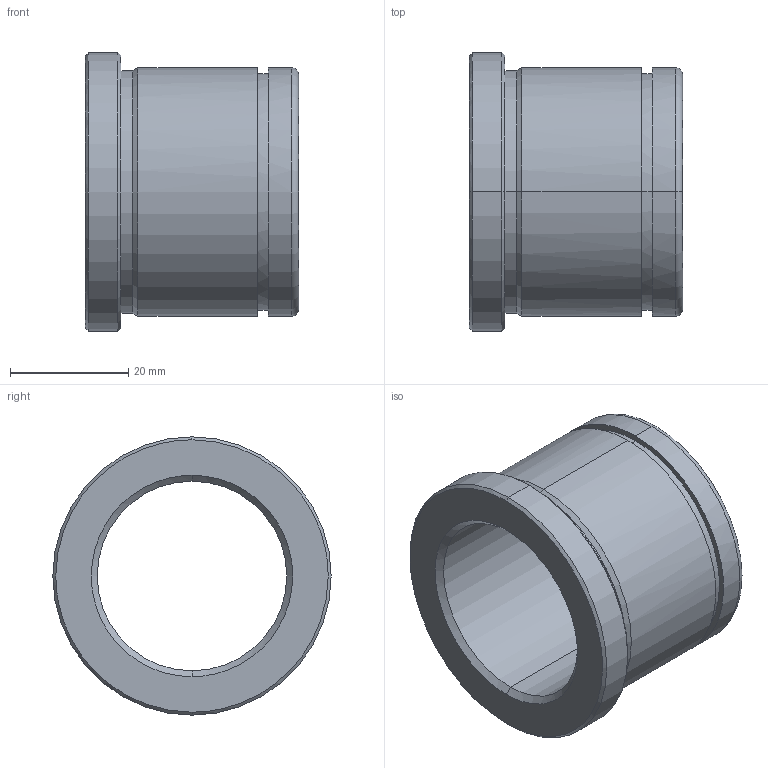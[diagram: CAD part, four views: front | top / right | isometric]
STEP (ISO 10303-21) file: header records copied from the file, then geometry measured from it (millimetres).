
FILE_DESCRIPTION(('CATIA V5 STEP Exchange'),'2;1');
FILE_NAME('C:\Users\Utente\Desktop\IO LAVORO\3D X SITO CF\X SITO\PLASTICA\553\553-32X36.stp','2021-05-26T18:47:31+00:00',('none'),('none'),'CATIA Version 5 Release 20 GA (IN-10)','CATIA V5 STEP AP203','none');
FILE_SCHEMA(('CONFIG_CONTROL_DESIGN'));
Length unit declared in the file: millimetre
Products named in the file (1): 553-32X36
Bounding box: 36 x 47 x 47 mm (x, y, z)
Volume: 22355.2 mm3; surface area: 10327.4 mm2
Topology: 1 solids, 1 shells, 29 faces, 92 edges, 68 vertices
Faces by surface type: cylinder 12, cone 8, plane 5, torus 4
Entity records: 1228 total; most frequent: CARTESIAN_POINT 378, ORIENTED_EDGE 184, DIRECTION 134, EDGE_CURVE 92, AXIS2_PLACEMENT_3D 86, VERTEX_POINT 68, CIRCLE 56, EDGE_LOOP 34
